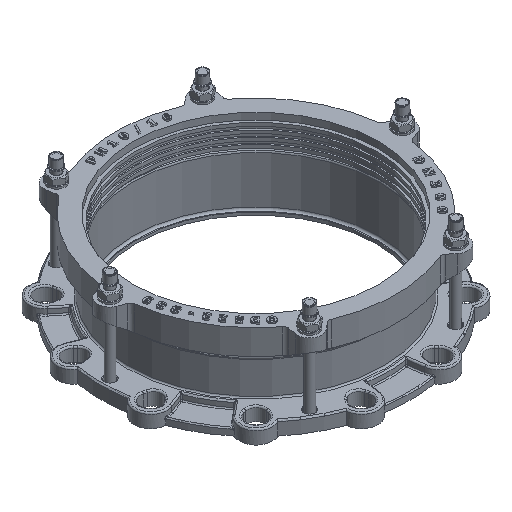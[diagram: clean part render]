
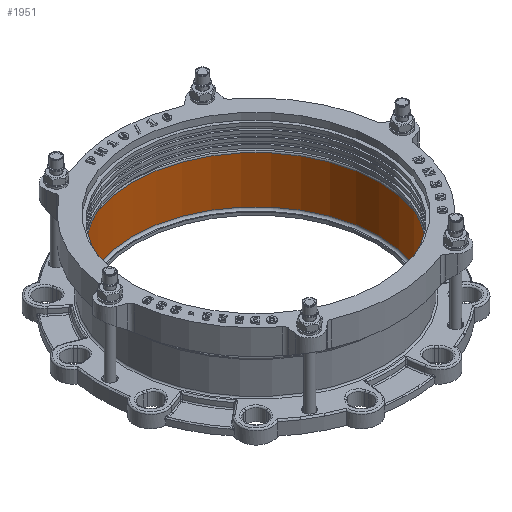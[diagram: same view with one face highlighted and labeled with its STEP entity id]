
A CAD part, isometric view. The second image highlights one B-rep face of the part: STEP entity #1951.
In plain terms, the highlighted cylindrical face has radius 169.5 mm (diameter 339 mm), a full revolution.
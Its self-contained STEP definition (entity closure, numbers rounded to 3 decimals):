
#1951=ADVANCED_FACE('',(#14172,#14174),#14176,.F.);
#14172=FACE_OUTER_BOUND('',#14173,.T.);
#14173=EDGE_LOOP('',(#21285));
#14174=FACE_OUTER_BOUND('',#14175,.T.);
#14175=EDGE_LOOP('',(#21286));
#14176=CYLINDRICAL_SURFACE('',#14177,169.5);
#14177=AXIS2_PLACEMENT_3D('',#14178,#14179,#14180);
#14178=CARTESIAN_POINT('',(0.,0.,4.));
#14179=DIRECTION('',(0.,0.,1.));
#14180=DIRECTION('',(-1.,0.,0.));
#21285=ORIENTED_EDGE('',*,*,#27378,.F.);
#21286=ORIENTED_EDGE('',*,*,#27379,.T.);
#27378=EDGE_CURVE('',#31109,#31109,#31110,.T.);
#27379=EDGE_CURVE('',#31111,#31111,#31112,.F.);
#31109=VERTEX_POINT('',#43669);
#31110=CIRCLE('',#43670,169.5);
#31111=VERTEX_POINT('',#43674);
#31112=CIRCLE('',#43675,169.5);
#43669=CARTESIAN_POINT('',(0.,169.5,71.5));
#43670=AXIS2_PLACEMENT_3D('',#43671,#43672,#43673);
#43671=CARTESIAN_POINT('',(0.,0.,71.5));
#43672=DIRECTION('',(0.,0.,-1.));
#43673=DIRECTION('',(0.,1.,0.));
#43674=CARTESIAN_POINT('',(0.,169.5,7.));
#43675=AXIS2_PLACEMENT_3D('',#43676,#43677,#43678);
#43676=CARTESIAN_POINT('',(0.,0.,7.));
#43677=DIRECTION('',(0.,0.,1.));
#43678=DIRECTION('',(0.,1.,0.));
